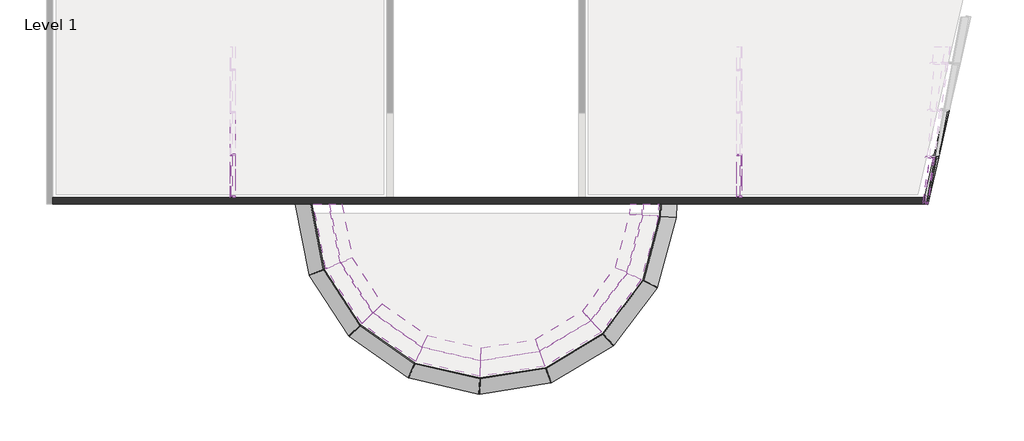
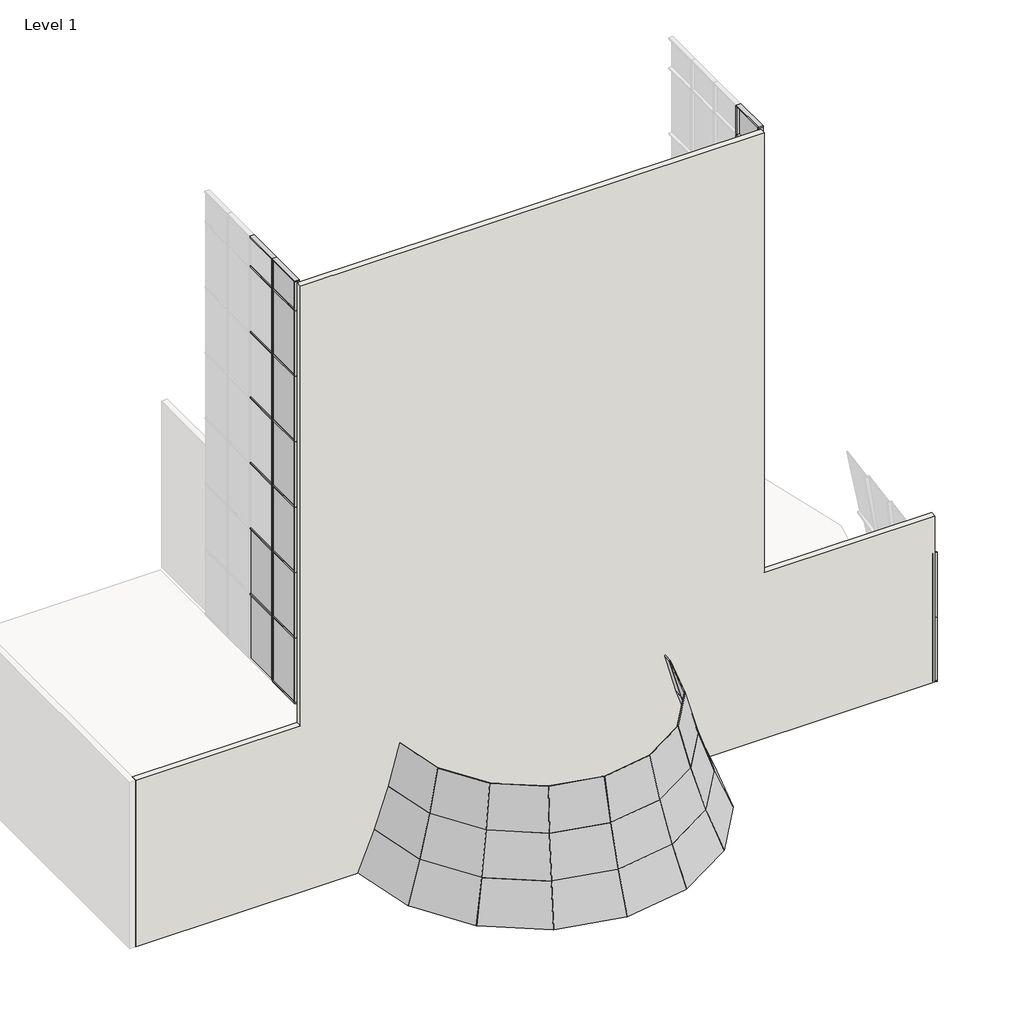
# One storey, part 1 of 4: 59 members, 45 plates, 1 wall.
"""IFC4 building model written with IfcOpenShell, lengths in millimetres."""

from ifc_helpers import new_model, si_unit, frame, origin, place, context, project, spatial, polyline, outline, extrude, transform, mapped, element, save
from components import rectangular_mullion_50_x_150mm_518b68e2, rectangular_mullion_50_x_150mm_6225e4e3, rectangular_mullion_50_x_150mm_8b0a0560, rectangular_mullion_50_x_150mm_662c37b1, rectangular_mullion_50_x_150mm_4186046b, rectangular_mullion_50_x_150mm_52791127, rectangular_mullion_50_x_150mm_c32e1d9f, rectangular_mullion_50_x_150mm_dfc8eed1, rectangular_mullion_50_x_150mm_8bc02e5d, rectangular_mullion_50_x_150mm_20ae9b8c, rectangular_mullion_50_x_150mm_801099e8, rectangular_mullion_50_x_150mm_c1bfd69c, rectangular_mullion_50_x_150mm_b9d54383, rectangular_mullion_50_x_150mm_a9c68ae1, rectangular_mullion_50_x_150mm_1a36453b, system_panel_glazed_d144a7da, system_panel_glazed_df259216, system_panel_glazed_098692fd, system_panel_glazed_5715ea40, system_panel_glazed_003a08bf, system_panel_glazed_bd283e11, system_panel_glazed_119a9483, system_panel_glazed_7fea05ff, system_panel_glazed_e56dad58, system_panel_glazed_fad301ff, system_panel_glazed_57588f8c, system_panel_glazed_55a81613, system_panel_glazed_3af11058

model = new_model("IFC4")

# Units and contexts
model_context = context("Model", 3, world=origin())
ifc_project = project(units=[si_unit("LENGTHUNIT", "METRE", prefix="MILLI")], contexts=[model_context])

# Site, building, storey
site = spatial("IfcSite", under=ifc_project)
building = spatial("IfcBuilding", under=site)
storey = spatial("IfcBuildingStorey", under=building, Name="Level 1", Elevation=0.0)

# Members
placement = place(None, origin())
rectangular_mullion_50_x_150mm_shape = rectangular_mullion_50_x_150mm_518b68e2(model_context)
element("IfcMember", 1, ObjectType="Rectangular Mullion : 50 x 150mm", at=placement, inside=storey, context=model_context, shape_type="MappedRepresentation", body=[
    mapped(rectangular_mullion_50_x_150mm_shape, transform((7953.3508723, -56.7852477, 6850.0), x_axis=(0.0, 1.0, 0.0), y_axis=(1.0, 0.0, 0.0), z_axis=(0.0, 0.0, -1.0))),
])
element("IfcMember", 2, ObjectType="Rectangular Mullion : 50 x 150mm", at=placement, inside=storey, context=model_context, shape_type="MappedRepresentation", body=[
    mapped(rectangular_mullion_50_x_150mm_shape, transform((-8113.532296, -56.7852477, 6850.0), x_axis=(0.0, -1.0, 0.0), y_axis=(-1.0, 0.0, 0.0), z_axis=(0.0, 0.0, -1.0))),
])
rectangular_mullion_50_x_150mm_2_shape = rectangular_mullion_50_x_150mm_6225e4e3(model_context)
element("IfcMember", 3, ObjectType="Rectangular Mullion : 50 x 150mm", at=placement, inside=storey, context=model_context, shape_type="MappedRepresentation", body=[
    mapped(rectangular_mullion_50_x_150mm_2_shape, transform((7953.3508723, -56.7852477, 9200.0), x_axis=(0.0, 1.0, 0.0), y_axis=(1.0, 0.0, 0.0), z_axis=(0.0, 0.0, -1.0))),
])
element("IfcMember", 4, ObjectType="Rectangular Mullion : 50 x 150mm", at=placement, inside=storey, context=model_context, shape_type="MappedRepresentation", body=[
    mapped(rectangular_mullion_50_x_150mm_2_shape, transform((7953.3508723, -56.7852477, 11600.0), x_axis=(0.0, 1.0, 0.0), y_axis=(1.0, 0.0, 0.0), z_axis=(0.0, 0.0, -1.0))),
])
element("IfcMember", 5, ObjectType="Rectangular Mullion : 50 x 150mm", at=placement, inside=storey, context=model_context, shape_type="MappedRepresentation", body=[
    mapped(rectangular_mullion_50_x_150mm_2_shape, transform((7953.3508723, -56.7852477, 14000.0), x_axis=(0.0, 1.0, 0.0), y_axis=(1.0, 0.0, 0.0), z_axis=(0.0, 0.0, -1.0))),
])
element("IfcMember", 6, ObjectType="Rectangular Mullion : 50 x 150mm", at=placement, inside=storey, context=model_context, shape_type="MappedRepresentation", body=[
    mapped(rectangular_mullion_50_x_150mm_2_shape, transform((7953.3508723, -56.7852477, 16400.0), x_axis=(0.0, 1.0, 0.0), y_axis=(1.0, 0.0, 0.0), z_axis=(0.0, 0.0, -1.0))),
])
element("IfcMember", 7, ObjectType="Rectangular Mullion : 50 x 150mm", at=placement, inside=storey, context=model_context, shape_type="MappedRepresentation", body=[
    mapped(rectangular_mullion_50_x_150mm_2_shape, transform((7953.3508723, -56.7852477, 18800.0), x_axis=(0.0, 1.0, 0.0), y_axis=(1.0, 0.0, 0.0), z_axis=(0.0, 0.0, -1.0))),
])
element("IfcMember", 8, ObjectType="Rectangular Mullion : 50 x 150mm", at=placement, inside=storey, context=model_context, shape_type="MappedRepresentation", body=[
    mapped(rectangular_mullion_50_x_150mm_2_shape, transform((-8113.532296, -56.7852477, 9200.0), x_axis=(0.0, -1.0, 0.0), y_axis=(-1.0, 0.0, 0.0), z_axis=(0.0, 0.0, -1.0))),
])
element("IfcMember", 9, ObjectType="Rectangular Mullion : 50 x 150mm", at=placement, inside=storey, context=model_context, shape_type="MappedRepresentation", body=[
    mapped(rectangular_mullion_50_x_150mm_2_shape, transform((-8113.532296, -56.7852477, 11600.0), x_axis=(0.0, -1.0, 0.0), y_axis=(-1.0, 0.0, 0.0), z_axis=(0.0, 0.0, -1.0))),
])
element("IfcMember", 10, ObjectType="Rectangular Mullion : 50 x 150mm", at=placement, inside=storey, context=model_context, shape_type="MappedRepresentation", body=[
    mapped(rectangular_mullion_50_x_150mm_2_shape, transform((-8113.532296, -56.7852477, 14000.0), x_axis=(0.0, -1.0, 0.0), y_axis=(-1.0, 0.0, 0.0), z_axis=(0.0, 0.0, -1.0))),
])
element("IfcMember", 11, ObjectType="Rectangular Mullion : 50 x 150mm", at=placement, inside=storey, context=model_context, shape_type="MappedRepresentation", body=[
    mapped(rectangular_mullion_50_x_150mm_2_shape, transform((-8113.532296, -56.7852477, 16400.0), x_axis=(0.0, -1.0, 0.0), y_axis=(-1.0, 0.0, 0.0), z_axis=(0.0, 0.0, -1.0))),
])
element("IfcMember", 12, ObjectType="Rectangular Mullion : 50 x 150mm", at=placement, inside=storey, context=model_context, shape_type="MappedRepresentation", body=[
    mapped(rectangular_mullion_50_x_150mm_2_shape, transform((-8113.532296, -56.7852477, 18800.0), x_axis=(0.0, -1.0, 0.0), y_axis=(-1.0, 0.0, 0.0), z_axis=(0.0, 0.0, -1.0))),
])
rectangular_mullion_50_x_150mm_3_shape = rectangular_mullion_50_x_150mm_8b0a0560(model_context)
element("IfcMember", 13, ObjectType="Rectangular Mullion : 50 x 150mm", at=placement, inside=storey, context=model_context, shape_type="MappedRepresentation", body=[
    mapped(rectangular_mullion_50_x_150mm_3_shape, transform((7953.3508723, -1410.1054831, 9200.0), x_axis=(0.0, -1.0, 0.0), y_axis=(1.0, 0.0, 0.0), z_axis=(0.0, 0.0, 1.0))),
])
rectangular_mullion_50_x_150mm_4_shape = rectangular_mullion_50_x_150mm_662c37b1(model_context)
element("IfcMember", 14, ObjectType="Rectangular Mullion : 50 x 150mm", at=placement, inside=storey, context=model_context, shape_type="MappedRepresentation", body=[
    mapped(rectangular_mullion_50_x_150mm_4_shape, transform((7953.3508723, -1410.1054831, 11600.0), x_axis=(0.0, -1.0, 0.0), y_axis=(1.0, 0.0, 0.0), z_axis=(0.0, 0.0, 1.0))),
])
element("IfcMember", 15, ObjectType="Rectangular Mullion : 50 x 150mm", at=placement, inside=storey, context=model_context, shape_type="MappedRepresentation", body=[
    mapped(rectangular_mullion_50_x_150mm_4_shape, transform((7953.3508723, -1410.1054831, 14000.0), x_axis=(0.0, -1.0, 0.0), y_axis=(1.0, 0.0, 0.0), z_axis=(0.0, 0.0, 1.0))),
])
element("IfcMember", 16, ObjectType="Rectangular Mullion : 50 x 150mm", at=placement, inside=storey, context=model_context, shape_type="MappedRepresentation", body=[
    mapped(rectangular_mullion_50_x_150mm_4_shape, transform((7953.3508723, -1410.1054831, 16400.0), x_axis=(0.0, -1.0, 0.0), y_axis=(1.0, 0.0, 0.0), z_axis=(0.0, 0.0, 1.0))),
])
element("IfcMember", 17, ObjectType="Rectangular Mullion : 50 x 150mm", at=placement, inside=storey, context=model_context, shape_type="MappedRepresentation", body=[
    mapped(rectangular_mullion_50_x_150mm_4_shape, transform((7953.3508723, -1410.1054831, 18800.0), x_axis=(0.0, -1.0, 0.0), y_axis=(1.0, 0.0, 0.0), z_axis=(0.0, 0.0, 1.0))),
])
element("IfcMember", 18, ObjectType="Rectangular Mullion : 50 x 150mm", at=placement, inside=storey, context=model_context, shape_type="MappedRepresentation", body=[
    mapped(rectangular_mullion_50_x_150mm_4_shape, transform((7953.3508723, -1410.1054831, 21200.0), x_axis=(0.0, -1.0, 0.0), y_axis=(1.0, 0.0, 0.0), z_axis=(0.0, 0.0, 1.0))),
])
rectangular_mullion_50_x_150mm_5_shape = rectangular_mullion_50_x_150mm_4186046b(model_context)
element("IfcMember", 19, ObjectType="Rectangular Mullion : 50 x 150mm", at=placement, inside=storey, context=model_context, shape_type="MappedRepresentation", body=[
    mapped(rectangular_mullion_50_x_150mm_5_shape, transform((7953.3508723, -1410.1054831, 6800.0), x_axis=(0.0, 0.0, -1.0), y_axis=(1.0, 0.0, 0.0), z_axis=(0.0, -1.0, 0.0))),
])
element("IfcMember", 20, ObjectType="Rectangular Mullion : 50 x 150mm", at=placement, inside=storey, context=model_context, shape_type="MappedRepresentation", body=[
    mapped(rectangular_mullion_50_x_150mm_5_shape, transform((7953.3508723, -56.7852477, 22300.0), x_axis=(0.0, 0.0, 1.0), y_axis=(1.0, 0.0, 0.0), z_axis=(0.0, 1.0, 0.0))),
])
element("IfcMember", 21, ObjectType="Rectangular Mullion : 50 x 150mm", at=placement, inside=storey, context=model_context, shape_type="MappedRepresentation", body=[
    mapped(rectangular_mullion_50_x_150mm_5_shape, transform((-8113.532296, -56.7852477, 22300.0), x_axis=(0.0, 0.0, 1.0), y_axis=(-1.0, 0.0, 0.0), z_axis=(0.0, -1.0, 0.0))),
])
element("IfcMember", 22, ObjectType="Rectangular Mullion : 50 x 150mm", at=placement, inside=storey, context=model_context, shape_type="MappedRepresentation", body=[
    mapped(rectangular_mullion_50_x_150mm_5_shape, transform((7953.3508723, -56.7852477, 6800.0), x_axis=(0.0, 0.0, -1.0), y_axis=(1.0, 0.0, 0.0), z_axis=(0.0, -1.0, 0.0))),
])
rectangular_mullion_50_x_150mm_6_shape = rectangular_mullion_50_x_150mm_52791127(model_context)
element("IfcMember", 23, ObjectType="Rectangular Mullion : 50 x 150mm", at=placement, inside=storey, context=model_context, shape_type="MappedRepresentation", body=[
    mapped(rectangular_mullion_50_x_150mm_6_shape, transform((7953.3508723, -81.7852477, 9200.0), x_axis=(0.0, 0.0, 1.0), y_axis=(1.0, 0.0, 0.0), z_axis=(0.0, 1.0, 0.0))),
])
element("IfcMember", 24, ObjectType="Rectangular Mullion : 50 x 150mm", at=placement, inside=storey, context=model_context, shape_type="MappedRepresentation", body=[
    mapped(rectangular_mullion_50_x_150mm_6_shape, transform((7953.3508723, -81.7852477, 11600.0), x_axis=(0.0, 0.0, 1.0), y_axis=(1.0, 0.0, 0.0), z_axis=(0.0, 1.0, 0.0))),
])
element("IfcMember", 25, ObjectType="Rectangular Mullion : 50 x 150mm", at=placement, inside=storey, context=model_context, shape_type="MappedRepresentation", body=[
    mapped(rectangular_mullion_50_x_150mm_6_shape, transform((7953.3508723, -81.7852477, 14000.0), x_axis=(0.0, 0.0, 1.0), y_axis=(1.0, 0.0, 0.0), z_axis=(0.0, 1.0, 0.0))),
])
element("IfcMember", 26, ObjectType="Rectangular Mullion : 50 x 150mm", at=placement, inside=storey, context=model_context, shape_type="MappedRepresentation", body=[
    mapped(rectangular_mullion_50_x_150mm_6_shape, transform((7953.3508723, -81.7852477, 16400.0), x_axis=(0.0, 0.0, 1.0), y_axis=(1.0, 0.0, 0.0), z_axis=(0.0, 1.0, 0.0))),
])
element("IfcMember", 27, ObjectType="Rectangular Mullion : 50 x 150mm", at=placement, inside=storey, context=model_context, shape_type="MappedRepresentation", body=[
    mapped(rectangular_mullion_50_x_150mm_6_shape, transform((7953.3508723, -81.7852477, 18800.0), x_axis=(0.0, 0.0, 1.0), y_axis=(1.0, 0.0, 0.0), z_axis=(0.0, 1.0, 0.0))),
])
element("IfcMember", 28, ObjectType="Rectangular Mullion : 50 x 150mm", at=placement, inside=storey, context=model_context, shape_type="MappedRepresentation", body=[
    mapped(rectangular_mullion_50_x_150mm_6_shape, transform((7953.3508723, -81.7852477, 21200.0), x_axis=(0.0, 0.0, 1.0), y_axis=(1.0, 0.0, 0.0), z_axis=(0.0, 1.0, 0.0))),
])
element("IfcMember", 29, ObjectType="Rectangular Mullion : 50 x 150mm", at=placement, inside=storey, context=model_context, shape_type="MappedRepresentation", body=[
    mapped(rectangular_mullion_50_x_150mm_6_shape, transform((-8113.532296, -1360.1054831, 9200.0), x_axis=(0.0, 0.0, 1.0), y_axis=(-1.0, 0.0, 0.0), z_axis=(0.0, -1.0, 0.0))),
])
element("IfcMember", 30, ObjectType="Rectangular Mullion : 50 x 150mm", at=placement, inside=storey, context=model_context, shape_type="MappedRepresentation", body=[
    mapped(rectangular_mullion_50_x_150mm_6_shape, transform((-8113.532296, -1360.1054831, 11600.0), x_axis=(0.0, 0.0, 1.0), y_axis=(-1.0, 0.0, 0.0), z_axis=(0.0, -1.0, 0.0))),
])
element("IfcMember", 31, ObjectType="Rectangular Mullion : 50 x 150mm", at=placement, inside=storey, context=model_context, shape_type="MappedRepresentation", body=[
    mapped(rectangular_mullion_50_x_150mm_6_shape, transform((-8113.532296, -1360.1054831, 14000.0), x_axis=(0.0, 0.0, 1.0), y_axis=(-1.0, 0.0, 0.0), z_axis=(0.0, -1.0, 0.0))),
])
element("IfcMember", 32, ObjectType="Rectangular Mullion : 50 x 150mm", at=placement, inside=storey, context=model_context, shape_type="MappedRepresentation", body=[
    mapped(rectangular_mullion_50_x_150mm_6_shape, transform((-8113.532296, -1360.1054831, 16400.0), x_axis=(0.0, 0.0, 1.0), y_axis=(-1.0, 0.0, 0.0), z_axis=(0.0, -1.0, 0.0))),
])
element("IfcMember", 33, ObjectType="Rectangular Mullion : 50 x 150mm", at=placement, inside=storey, context=model_context, shape_type="MappedRepresentation", body=[
    mapped(rectangular_mullion_50_x_150mm_6_shape, transform((-8113.532296, -1360.1054831, 18800.0), x_axis=(0.0, 0.0, 1.0), y_axis=(-1.0, 0.0, 0.0), z_axis=(0.0, -1.0, 0.0))),
])
element("IfcMember", 34, ObjectType="Rectangular Mullion : 50 x 150mm", at=placement, inside=storey, context=model_context, shape_type="MappedRepresentation", body=[
    mapped(rectangular_mullion_50_x_150mm_6_shape, transform((-8113.532296, -1360.1054831, 21200.0), x_axis=(0.0, 0.0, 1.0), y_axis=(-1.0, 0.0, 0.0), z_axis=(0.0, -1.0, 0.0))),
])
rectangular_mullion_50_x_150mm_7_shape = rectangular_mullion_50_x_150mm_c32e1d9f(model_context)
element("IfcMember", 35, ObjectType="Rectangular Mullion : 50 x 150mm", at=placement, inside=storey, context=model_context, shape_type="MappedRepresentation", body=[
    mapped(rectangular_mullion_50_x_150mm_7_shape, transform((-8113.532296, -31.7852477, 9200.0), x_axis=(0.0, 0.0, 1.0), y_axis=(-1.0, 0.0, 0.0), z_axis=(0.0, -1.0, 0.0))),
])
element("IfcMember", 36, ObjectType="Rectangular Mullion : 50 x 150mm", at=placement, inside=storey, context=model_context, shape_type="MappedRepresentation", body=[
    mapped(rectangular_mullion_50_x_150mm_7_shape, transform((-8113.532296, -31.7852477, 11600.0), x_axis=(0.0, 0.0, 1.0), y_axis=(-1.0, 0.0, 0.0), z_axis=(0.0, -1.0, 0.0))),
])
element("IfcMember", 37, ObjectType="Rectangular Mullion : 50 x 150mm", at=placement, inside=storey, context=model_context, shape_type="MappedRepresentation", body=[
    mapped(rectangular_mullion_50_x_150mm_7_shape, transform((-8113.532296, -31.7852477, 14000.0), x_axis=(0.0, 0.0, 1.0), y_axis=(-1.0, 0.0, 0.0), z_axis=(0.0, -1.0, 0.0))),
])
element("IfcMember", 38, ObjectType="Rectangular Mullion : 50 x 150mm", at=placement, inside=storey, context=model_context, shape_type="MappedRepresentation", body=[
    mapped(rectangular_mullion_50_x_150mm_7_shape, transform((-8113.532296, -31.7852477, 16400.0), x_axis=(0.0, 0.0, 1.0), y_axis=(-1.0, 0.0, 0.0), z_axis=(0.0, -1.0, 0.0))),
])
element("IfcMember", 39, ObjectType="Rectangular Mullion : 50 x 150mm", at=placement, inside=storey, context=model_context, shape_type="MappedRepresentation", body=[
    mapped(rectangular_mullion_50_x_150mm_7_shape, transform((-8113.532296, -31.7852477, 18800.0), x_axis=(0.0, 0.0, 1.0), y_axis=(-1.0, 0.0, 0.0), z_axis=(0.0, -1.0, 0.0))),
])
element("IfcMember", 40, ObjectType="Rectangular Mullion : 50 x 150mm", at=placement, inside=storey, context=model_context, shape_type="MappedRepresentation", body=[
    mapped(rectangular_mullion_50_x_150mm_7_shape, transform((-8113.532296, -31.7852477, 21200.0), x_axis=(0.0, 0.0, 1.0), y_axis=(-1.0, 0.0, 0.0), z_axis=(0.0, -1.0, 0.0))),
])
element("IfcMember", 41, ObjectType="Rectangular Mullion : 50 x 150mm", at=placement, inside=storey, context=model_context, shape_type="MappedRepresentation", body=[
    mapped(rectangular_mullion_50_x_150mm_3_shape, transform((-8113.532296, -1410.1054831, 6850.0), x_axis=(0.0, -1.0, 0.0), y_axis=(-1.0, 0.0, 0.0), z_axis=(0.0, 0.0, -1.0))),
])
element("IfcMember", 42, ObjectType="Rectangular Mullion : 50 x 150mm", at=placement, inside=storey, context=model_context, shape_type="MappedRepresentation", body=[
    mapped(rectangular_mullion_50_x_150mm_4_shape, transform((-8113.532296, -1410.1054831, 9200.0), x_axis=(0.0, -1.0, 0.0), y_axis=(-1.0, 0.0, 0.0), z_axis=(0.0, 0.0, -1.0))),
])
element("IfcMember", 43, ObjectType="Rectangular Mullion : 50 x 150mm", at=placement, inside=storey, context=model_context, shape_type="MappedRepresentation", body=[
    mapped(rectangular_mullion_50_x_150mm_4_shape, transform((-8113.532296, -1410.1054831, 11600.0), x_axis=(0.0, -1.0, 0.0), y_axis=(-1.0, 0.0, 0.0), z_axis=(0.0, 0.0, -1.0))),
])
element("IfcMember", 44, ObjectType="Rectangular Mullion : 50 x 150mm", at=placement, inside=storey, context=model_context, shape_type="MappedRepresentation", body=[
    mapped(rectangular_mullion_50_x_150mm_4_shape, transform((-8113.532296, -1410.1054831, 14000.0), x_axis=(0.0, -1.0, 0.0), y_axis=(-1.0, 0.0, 0.0), z_axis=(0.0, 0.0, -1.0))),
])
element("IfcMember", 45, ObjectType="Rectangular Mullion : 50 x 150mm", at=placement, inside=storey, context=model_context, shape_type="MappedRepresentation", body=[
    mapped(rectangular_mullion_50_x_150mm_4_shape, transform((-8113.532296, -1410.1054831, 16400.0), x_axis=(0.0, -1.0, 0.0), y_axis=(-1.0, 0.0, 0.0), z_axis=(0.0, 0.0, -1.0))),
])
element("IfcMember", 46, ObjectType="Rectangular Mullion : 50 x 150mm", at=placement, inside=storey, context=model_context, shape_type="MappedRepresentation", body=[
    mapped(rectangular_mullion_50_x_150mm_4_shape, transform((-8113.532296, -1410.1054831, 18800.0), x_axis=(0.0, -1.0, 0.0), y_axis=(-1.0, 0.0, 0.0), z_axis=(0.0, 0.0, -1.0))),
])
element("IfcMember", 47, ObjectType="Rectangular Mullion : 50 x 150mm", at=placement, inside=storey, context=model_context, shape_type="MappedRepresentation", body=[
    mapped(rectangular_mullion_50_x_150mm_5_shape, transform((-8113.532296, -1410.1054831, 22300.0), x_axis=(0.0, 0.0, 1.0), y_axis=(-1.0, 0.0, 0.0), z_axis=(0.0, -1.0, 0.0))),
])
element("IfcMember", 48, ObjectType="Rectangular Mullion : 50 x 150mm", at=placement, inside=storey, context=model_context, shape_type="MappedRepresentation", body=[
    mapped(rectangular_mullion_50_x_150mm_5_shape, transform((-8113.532296, -56.7852477, 6800.0), x_axis=(0.0, 0.0, -1.0), y_axis=(-1.0, 0.0, 0.0), z_axis=(0.0, 1.0, 0.0))),
])
rectangular_mullion_50_x_150mm_8_shape = rectangular_mullion_50_x_150mm_dfc8eed1(model_context)
element("IfcMember", 49, ObjectType="Rectangular Mullion : 50 x 150mm", at=placement, inside=storey, context=model_context, shape_type="MappedRepresentation", body=[
    mapped(rectangular_mullion_50_x_150mm_8_shape, transform((13862.2459218, -1610.1054831, 0.0), x_axis=(0.026968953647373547, -0.00620703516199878, -0.9996170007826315), y_axis=(0.974148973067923, -0.22420509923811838, 0.027674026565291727), z_axis=(-0.22429100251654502, -0.9745222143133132, 0.0))),
])
element("IfcMember", 50, ObjectType="Rectangular Mullion : 50 x 150mm", at=placement, inside=storey, context=model_context, shape_type="MappedRepresentation", body=[
    mapped(rectangular_mullion_50_x_150mm_8_shape, transform((14205.2147124, -119.9400218, 0.0), x_axis=(0.08066014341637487, -0.018564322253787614, -0.996568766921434), y_axis=(0.9711784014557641, -0.22352140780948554, 0.08276891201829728), z_axis=(-0.22429100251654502, -0.9745222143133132, 0.0))),
])
rectangular_mullion_50_x_150mm_9_shape = rectangular_mullion_50_x_150mm_8bc02e5d(model_context)
element("IfcMember", 51, ObjectType="Rectangular Mullion : 50 x 150mm", at=placement, inside=storey, context=model_context, shape_type="MappedRepresentation", body=[
    mapped(rectangular_mullion_50_x_150mm_9_shape, transform((13862.2459218, -1610.1054831, 2369.6875935), x_axis=(-0.1823134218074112, -0.9832404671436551, 0.0), y_axis=(0.9832404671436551, -0.1823134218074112, 0.0), z_axis=(0.0, 0.0, 1.0))),
])
rectangular_mullion_50_x_150mm_10_shape = rectangular_mullion_50_x_150mm_20ae9b8c(model_context)
element("IfcMember", 52, ObjectType="Rectangular Mullion : 50 x 150mm", at=placement, inside=storey, context=model_context, shape_type="MappedRepresentation", body=[
    mapped(rectangular_mullion_50_x_150mm_10_shape, transform((13862.2459218, -1610.1054831, 4739.375187), x_axis=(-0.0955146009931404, -0.9954280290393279, 0.0), y_axis=(0.995428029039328, -0.09551460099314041, 0.0), z_axis=(0.0, 0.0, 1.0))),
])
rectangular_mullion_50_x_150mm_11_shape = rectangular_mullion_50_x_150mm_801099e8(model_context)
element("IfcMember", 53, ObjectType="Rectangular Mullion : 50 x 150mm", at=placement, inside=storey, context=model_context, shape_type="MappedRepresentation", body=[
    mapped(rectangular_mullion_50_x_150mm_11_shape, transform((14068.410165, -144.6962241, 2369.6875935), x_axis=(-0.05417155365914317, 0.007621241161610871, 0.9985025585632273), y_axis=(0.9887652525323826, -0.13910655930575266, 0.05470503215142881), z_axis=(0.13931517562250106, 0.9902480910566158, 0.0))),
])
rectangular_mullion_50_x_150mm_12_shape = rectangular_mullion_50_x_150mm_c1bfd69c(model_context)
element("IfcMember", 54, ObjectType="Rectangular Mullion : 50 x 150mm", at=placement, inside=storey, context=model_context, shape_type="MappedRepresentation", body=[
    mapped(rectangular_mullion_50_x_150mm_12_shape, transform((14202.4060897, -119.9400218, 49.9210541), x_axis=(0.221860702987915, 0.9749984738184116, 0.012482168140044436), y_axis=(0.9734590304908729, -0.22221155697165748, 0.05476805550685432), z_axis=(0.0561724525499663, 0.0, -0.9984210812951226))),
])
rectangular_mullion_50_x_150mm_13_shape = rectangular_mullion_50_x_150mm_b9d54383(model_context)
element("IfcMember", 55, ObjectType="Rectangular Mullion : 50 x 150mm", at=placement, inside=storey, context=model_context, shape_type="MappedRepresentation", body=[
    mapped(rectangular_mullion_50_x_150mm_13_shape, transform((14071.8930444, -119.9400218, 2369.6875935), x_axis=(0.1388798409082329, 0.9902784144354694, 0.007813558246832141), y_axis=(0.9887148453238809, -0.1390994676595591, 0.05562636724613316), z_axis=(0.056172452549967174, 0.0, -0.9984210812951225))),
])
rectangular_mullion_50_x_150mm_14_shape = rectangular_mullion_50_x_150mm_a9c68ae1(model_context)
element("IfcMember", 56, ObjectType="Rectangular Mullion : 50 x 150mm", at=placement, inside=storey, context=model_context, shape_type="MappedRepresentation", body=[
    mapped(rectangular_mullion_50_x_150mm_14_shape, transform((7953.3508723, -56.7852477, 21200.0), x_axis=(0.0, 1.0, 0.0), y_axis=(1.0, 0.0, 0.0), z_axis=(0.0, 0.0, -1.0))),
])
element("IfcMember", 57, ObjectType="Rectangular Mullion : 50 x 150mm", at=placement, inside=storey, context=model_context, shape_type="MappedRepresentation", body=[
    mapped(rectangular_mullion_50_x_150mm_14_shape, transform((-8113.532296, -56.7852477, 21200.0), x_axis=(0.0, -1.0, 0.0), y_axis=(-1.0, 0.0, 0.0), z_axis=(0.0, 0.0, -1.0))),
])
rectangular_mullion_50_x_150mm_15_shape = rectangular_mullion_50_x_150mm_1a36453b(model_context)
element("IfcMember", 58, ObjectType="Rectangular Mullion : 50 x 150mm", at=placement, inside=storey, context=model_context, shape_type="MappedRepresentation", body=[
    mapped(rectangular_mullion_50_x_150mm_15_shape, transform((-8113.532296, -1410.1054831, 21200.0), x_axis=(0.0, -1.0, 0.0), y_axis=(-1.0, 0.0, 0.0), z_axis=(0.0, 0.0, -1.0))),
])
element("IfcMember", 59, ObjectType="Rectangular Mullion : 50 x 150mm", at=placement, inside=storey, context=model_context, shape_type="MappedRepresentation", body=[
    mapped(rectangular_mullion_50_x_150mm_15_shape, transform((7953.3508723, -1410.1054831, 22250.0), x_axis=(0.0, -1.0, 0.0), y_axis=(1.0, 0.0, 0.0), z_axis=(0.0, 0.0, 1.0))),
])

# Plates
system_panel_glazed_shape = system_panel_glazed_d144a7da(model_context)
element("IfcPlate", 60, ObjectType="System Panel : Glazed", at=placement, inside=storey, context=model_context, shape_type="MappedRepresentation", body=[
    mapped(system_panel_glazed_shape, transform((7953.3508723, -720.9453654, 6850.0), x_axis=(0.0, 1.0, 0.0), y_axis=(-1.0, 0.0, 0.0), z_axis=(0.0, 0.0, 1.0))),
])
element("IfcPlate", 61, ObjectType="System Panel : Glazed", at=placement, inside=storey, context=model_context, shape_type="MappedRepresentation", body=[
    mapped(system_panel_glazed_shape, transform((-8113.532296, -720.9453654, 6850.0), x_axis=(0.0, -1.0, 0.0), y_axis=(1.0, 0.0, 0.0), z_axis=(0.0, 0.0, 1.0))),
])
system_panel_glazed_2_shape = system_panel_glazed_df259216(model_context)
element("IfcPlate", 62, ObjectType="System Panel : Glazed", at=placement, inside=storey, context=model_context, shape_type="MappedRepresentation", body=[
    mapped(system_panel_glazed_2_shape, transform((-8113.532296, 619.8748699, 6850.0), x_axis=(0.0, -1.0, 0.0), y_axis=(1.0, 0.0, 0.0), z_axis=(0.0, 0.0, 1.0))),
])
system_panel_glazed_3_shape = system_panel_glazed_098692fd(model_context)
element("IfcPlate", 63, ObjectType="System Panel : Glazed", at=placement, inside=storey, context=model_context, shape_type="MappedRepresentation", body=[
    mapped(system_panel_glazed_3_shape, transform((7953.3508723, -720.9453654, 9225.0), x_axis=(0.0, 1.0, 0.0), y_axis=(-1.0, 0.0, 0.0), z_axis=(0.0, 0.0, 1.0))),
])
element("IfcPlate", 64, ObjectType="System Panel : Glazed", at=placement, inside=storey, context=model_context, shape_type="MappedRepresentation", body=[
    mapped(system_panel_glazed_3_shape, transform((7953.3508723, -720.9453654, 11625.0), x_axis=(0.0, 1.0, 0.0), y_axis=(-1.0, 0.0, 0.0), z_axis=(0.0, 0.0, 1.0))),
])
element("IfcPlate", 65, ObjectType="System Panel : Glazed", at=placement, inside=storey, context=model_context, shape_type="MappedRepresentation", body=[
    mapped(system_panel_glazed_3_shape, transform((7953.3508723, -720.9453654, 14025.0), x_axis=(0.0, 1.0, 0.0), y_axis=(-1.0, 0.0, 0.0), z_axis=(0.0, 0.0, 1.0))),
])
element("IfcPlate", 66, ObjectType="System Panel : Glazed", at=placement, inside=storey, context=model_context, shape_type="MappedRepresentation", body=[
    mapped(system_panel_glazed_3_shape, transform((7953.3508723, -720.9453654, 16425.0), x_axis=(0.0, 1.0, 0.0), y_axis=(-1.0, 0.0, 0.0), z_axis=(0.0, 0.0, 1.0))),
])
element("IfcPlate", 67, ObjectType="System Panel : Glazed", at=placement, inside=storey, context=model_context, shape_type="MappedRepresentation", body=[
    mapped(system_panel_glazed_3_shape, transform((7953.3508723, -720.9453654, 18825.0), x_axis=(0.0, 1.0, 0.0), y_axis=(-1.0, 0.0, 0.0), z_axis=(0.0, 0.0, 1.0))),
])
element("IfcPlate", 68, ObjectType="System Panel : Glazed", at=placement, inside=storey, context=model_context, shape_type="MappedRepresentation", body=[
    mapped(system_panel_glazed_3_shape, transform((-8113.532296, -720.9453654, 9225.0), x_axis=(0.0, -1.0, 0.0), y_axis=(1.0, 0.0, 0.0), z_axis=(0.0, 0.0, 1.0))),
])
element("IfcPlate", 69, ObjectType="System Panel : Glazed", at=placement, inside=storey, context=model_context, shape_type="MappedRepresentation", body=[
    mapped(system_panel_glazed_3_shape, transform((-8113.532296, -720.9453654, 11625.0), x_axis=(0.0, -1.0, 0.0), y_axis=(1.0, 0.0, 0.0), z_axis=(0.0, 0.0, 1.0))),
])
element("IfcPlate", 70, ObjectType="System Panel : Glazed", at=placement, inside=storey, context=model_context, shape_type="MappedRepresentation", body=[
    mapped(system_panel_glazed_3_shape, transform((-8113.532296, -720.9453654, 14025.0), x_axis=(0.0, -1.0, 0.0), y_axis=(1.0, 0.0, 0.0), z_axis=(0.0, 0.0, 1.0))),
])
element("IfcPlate", 71, ObjectType="System Panel : Glazed", at=placement, inside=storey, context=model_context, shape_type="MappedRepresentation", body=[
    mapped(system_panel_glazed_3_shape, transform((-8113.532296, -720.9453654, 16425.0), x_axis=(0.0, -1.0, 0.0), y_axis=(1.0, 0.0, 0.0), z_axis=(0.0, 0.0, 1.0))),
])
element("IfcPlate", 72, ObjectType="System Panel : Glazed", at=placement, inside=storey, context=model_context, shape_type="MappedRepresentation", body=[
    mapped(system_panel_glazed_3_shape, transform((-8113.532296, -720.9453654, 18825.0), x_axis=(0.0, -1.0, 0.0), y_axis=(1.0, 0.0, 0.0), z_axis=(0.0, 0.0, 1.0))),
])
system_panel_glazed_4_shape = system_panel_glazed_5715ea40(model_context)
element("IfcPlate", 73, ObjectType="System Panel : Glazed", at=placement, inside=storey, context=model_context, shape_type="MappedRepresentation", body=[
    mapped(system_panel_glazed_4_shape, transform((-8113.532296, 619.8748699, 9225.0), x_axis=(0.0, -1.0, 0.0), y_axis=(1.0, 0.0, 0.0), z_axis=(0.0, 0.0, 1.0))),
])
system_panel_glazed_5_shape = system_panel_glazed_003a08bf(model_context)
element("IfcPlate", 74, ObjectType="System Panel : Glazed", at=placement, inside=storey, context=model_context, shape_type="MappedRepresentation", body=[
    mapped(system_panel_glazed_5_shape, transform((14034.3554374, -854.0706336, 49.9680164), x_axis=(0.18234554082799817, 0.9832337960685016, -0.001185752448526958), y_axis=(-0.9828645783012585, 0.1822437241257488, -0.02764861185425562), z_axis=(-0.026968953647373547, 0.006207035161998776, 0.9996170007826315))),
])
system_panel_glazed_6_shape = system_panel_glazed_bd283e11(model_context)
element("IfcPlate", 75, ObjectType="System Panel : Glazed", at=placement, inside=storey, context=model_context, shape_type="MappedRepresentation", body=[
    mapped(system_panel_glazed_6_shape, transform((13967.423963, -854.0060518, 2394.6642318), x_axis=(0.09554895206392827, 0.9954239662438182, -0.001234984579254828), y_axis=(-0.9950379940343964, 0.09547717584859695, -0.02799105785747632), z_axis=(-0.027745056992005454, 0.0039033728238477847, 0.9996074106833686))),
])
system_panel_glazed_7_shape = system_panel_glazed_119a9483(model_context)
element("IfcPlate", 76, ObjectType="System Panel : Glazed", at=placement, inside=storey, context=model_context, shape_type="MappedRepresentation", body=[
    mapped(system_panel_glazed_7_shape, transform((5912.389052, -1822.3898816, 0.0), x_axis=(0.035403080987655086, 0.9993731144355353, 3.214486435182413e-12), y_axis=(-0.9242594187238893, 0.03274215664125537, -0.38035835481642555), z_axis=(-0.38011991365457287, 0.013465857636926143, 0.9248391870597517))),
])
system_panel_glazed_8_shape = system_panel_glazed_7fea05ff(model_context)
element("IfcPlate", 77, ObjectType="System Panel : Glazed", at=placement, inside=storey, context=model_context, shape_type="MappedRepresentation", body=[
    mapped(system_panel_glazed_8_shape, transform((5342.2609305, -1802.1930166, 1387.1328668), x_axis=(0.035403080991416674, 0.9993731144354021, 0.0), y_axis=(-0.9456797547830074, 0.0335009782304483, -0.32336896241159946), z_axis=(-0.32316624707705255, 0.011448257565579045, 0.9462729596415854))),
])
system_panel_glazed_9_shape = system_panel_glazed_e56dad58(model_context)
element("IfcPlate", 78, ObjectType="System Panel : Glazed", at=placement, inside=storey, context=model_context, shape_type="MappedRepresentation", body=[
    mapped(system_panel_glazed_9_shape, transform((4857.5433597, -1785.0218317, 2806.4491846), x_axis=(0.03540308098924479, 0.999373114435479, 0.0), y_axis=(-0.9644422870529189, 0.03416564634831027, -0.2620759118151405), z_axis=(-0.2619116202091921, 0.00927829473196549, 0.965047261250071))),
])
system_panel_glazed_10_shape = system_panel_glazed_fad301ff(model_context)
element("IfcPlate", 79, ObjectType="System Panel : Glazed", at=placement, inside=storey, context=model_context, shape_type="MappedRepresentation", body=[
    mapped(system_panel_glazed_10_shape, transform((-5861.7837303, -2733.575001, 0.0), x_axis=(0.19074722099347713, -0.9816391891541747, 0.0), y_axis=(0.9101772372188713, 0.17686109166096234, -0.3745631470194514), z_axis=(0.36768586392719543, 0.0714468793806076, 0.9272014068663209))),
])
element("IfcPlate", 80, ObjectType="System Panel : Glazed", at=placement, inside=storey, context=model_context, shape_type="MappedRepresentation", body=[
    mapped(system_panel_glazed_10_shape, transform((-3459.8799339, -6433.7122987, 0.0), x_axis=(0.8189714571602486, -0.573834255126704, 0.0), y_axis=(0.5320599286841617, 0.759351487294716, -0.3745631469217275), z_axis=(0.21493716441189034, 0.30675652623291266, 0.9272014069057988))),
])
element("IfcPlate", 81, ObjectType="System Panel : Glazed", at=placement, inside=storey, context=model_context, shape_type="MappedRepresentation", body=[
    mapped(system_panel_glazed_10_shape, transform((837.9860656, -7427.9481507, 0.0), x_axis=(0.9877768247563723, 0.15587477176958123, 0.0), y_axis=(-0.1445273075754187, 0.9158680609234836, -0.37456314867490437), z_axis=(-0.058384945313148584, 0.369984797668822, 0.9272014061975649))),
])
element("IfcPlate", 82, ObjectType="System Panel : Glazed", at=placement, inside=storey, context=model_context, shape_type="MappedRepresentation", body=[
    mapped(system_panel_glazed_10_shape, transform((4620.837768, -5158.5459268, 0.0), x_axis=(0.6024685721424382, 0.7981426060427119, 0.0), y_axis=(-0.7400389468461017, 0.5586097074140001, -0.37456314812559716), z_axis=(-0.2989548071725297, 0.22566252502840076, 0.9272014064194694))),
])
element("IfcPlate", 83, ObjectType="System Panel : Glazed", at=placement, inside=storey, context=model_context, shape_type="MappedRepresentation", body=[
    mapped(system_panel_glazed_10_shape, transform((5607.6108279, -3139.8797595, 0.0), x_axis=(0.25973122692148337, 0.9656809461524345, 0.0), y_axis=(-0.8953807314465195, 0.2408231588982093, -0.37456314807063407), z_axis=(-0.36170849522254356, 0.09728574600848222, 0.9272014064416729))),
])
element("IfcPlate", 84, ObjectType="System Panel : Glazed", at=placement, inside=storey, context=model_context, shape_type="MappedRepresentation", body=[
    mapped(system_panel_glazed_10_shape, transform((2949.9012772, -6660.7793688, 0.0), x_axis=(0.8575238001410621, 0.5144442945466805, 0.0), y_axis=(-0.4769934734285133, 0.7950972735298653, -0.3745631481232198), z_axis=(-0.19269187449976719, 0.32119681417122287, 0.9272014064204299))),
])
element("IfcPlate", 85, ObjectType="System Panel : Glazed", at=placement, inside=storey, context=model_context, shape_type="MappedRepresentation", body=[
    mapped(system_panel_glazed_10_shape, transform((-1407.544304, -7348.4000635, 0.0), x_axis=(0.974270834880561, -0.22538043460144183, 0.0), y_axis=(0.20897305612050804, 0.9033452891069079, -0.37456314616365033), z_axis=(0.08441920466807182, 0.36492594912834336, 0.9272014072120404))),
])
element("IfcPlate", 86, ObjectType="System Panel : Glazed", at=placement, inside=storey, context=model_context, shape_type="MappedRepresentation", body=[
    mapped(system_panel_glazed_10_shape, transform((-5020.3278678, -4817.0065838, 0.0), x_axis=(0.5444806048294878, -0.8387734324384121, 0.0), y_axis=(0.7777119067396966, 0.5048431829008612, -0.3745631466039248), z_axis=(0.31417361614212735, 0.20394236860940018, 0.927201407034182))),
])
system_panel_glazed_11_shape = system_panel_glazed_57588f8c(model_context)
element("IfcPlate", 87, ObjectType="System Panel : Glazed", at=placement, inside=storey, context=model_context, shape_type="MappedRepresentation", body=[
    mapped(system_panel_glazed_11_shape, transform((-5311.7099862, -2626.6874367, 1387.1328668), x_axis=(0.19074722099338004, -0.9816391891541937, 0.0), y_axis=(0.9306116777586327, 0.1808318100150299, -0.3182165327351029), z_axis=(0.31237381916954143, 0.0606989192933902, 0.9480180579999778))),
])
element("IfcPlate", 88, ObjectType="System Panel : Glazed", at=placement, inside=storey, context=model_context, shape_type="MappedRepresentation", body=[
    mapped(system_panel_glazed_11_shape, transform((-3138.3247587, -5974.791451, 1387.1328668), x_axis=(0.8189714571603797, -0.5738342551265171, 0.0), y_axis=(0.5440052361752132, 0.7763997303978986, -0.31821653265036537), z_axis=(0.18260354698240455, 0.26061025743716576, 0.9480180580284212))),
])
element("IfcPlate", 89, ObjectType="System Panel : Glazed", at=placement, inside=storey, context=model_context, shape_type="MappedRepresentation", body=[
    mapped(system_panel_glazed_11_shape, transform((750.6396899, -6874.4351073, 1387.1328668), x_axis=(0.9877768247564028, 0.15587477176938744, 0.0), y_axis=(-0.14777209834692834, 0.9364302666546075, -0.3182165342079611), z_axis=(-0.049601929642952, 0.3143269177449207, 0.9480180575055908))),
])
element("IfcPlate", 90, ObjectType="System Panel : Glazed", at=placement, inside=storey, context=model_context, shape_type="MappedRepresentation", body=[
    mapped(system_panel_glazed_11_shape, transform((4173.5886108, -4820.9451731, 1387.1328668), x_axis=(0.602468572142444, 0.7981426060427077, 0.0), y_axis=(-0.7566536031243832, 0.5711510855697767, -0.3182165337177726), z_axis=(-0.253982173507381, 0.19171546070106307, 0.9480180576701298))),
])
element("IfcPlate", 91, ObjectType="System Panel : Glazed", at=placement, inside=storey, context=model_context, shape_type="MappedRepresentation", body=[
    mapped(system_panel_glazed_11_shape, transform((5066.4794896, -2994.3361166, 1387.1328668), x_axis=(0.25973122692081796, 0.9656809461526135, 0.0), y_axis=(-0.9154829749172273, 0.2462298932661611, -0.31821653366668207), z_axis=(-0.30729564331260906, 0.08265077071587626, 0.9480180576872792))),
])
element("IfcPlate", 92, ObjectType="System Panel : Glazed", at=placement, inside=storey, context=model_context, shape_type="MappedRepresentation", body=[
    mapped(system_panel_glazed_11_shape, transform((2661.6260207, -6180.2552238, 1387.1328668), x_axis=(0.8575238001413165, 0.5144442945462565, 0.0), y_axis=(-0.48770248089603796, 0.8129480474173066, -0.3182165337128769), z_axis=(-0.16370468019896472, 0.2728782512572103, 0.9480180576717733))),
])
element("IfcPlate", 93, ObjectType="System Panel : Glazed", at=placement, inside=storey, context=model_context, shape_type="MappedRepresentation", body=[
    mapped(system_panel_glazed_11_shape, transform((-1281.2495725, -6802.4552729, 1387.1328668), x_axis=(0.9742708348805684, -0.22538043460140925, 0.0), y_axis=(0.21366472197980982, 0.9236263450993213, -0.3182165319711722), z_axis=(0.07171978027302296, 0.3100290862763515, 0.9480180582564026))),
])
element("IfcPlate", 94, ObjectType="System Panel : Glazed", at=placement, inside=storey, context=model_context, shape_type="MappedRepresentation", body=[
    mapped(system_panel_glazed_11_shape, transform((-4550.3107395, -4511.9000883, 1387.1328668), x_axis=(0.5444806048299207, -0.838773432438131, 0.0), y_axis=(0.7951723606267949, 0.5161774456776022, -0.3182165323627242), z_axis=(0.2669115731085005, 0.17326273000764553, 0.9480180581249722))),
])
system_panel_glazed_12_shape = system_panel_glazed_55a81613(model_context)
element("IfcPlate", 95, ObjectType="System Panel : Glazed", at=placement, inside=storey, context=model_context, shape_type="MappedRepresentation", body=[
    mapped(system_panel_glazed_12_shape, transform((-4844.0424587, -2535.8126341, 2806.4491846), x_axis=(0.19074722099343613, -0.9816391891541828, 0.0), y_axis=(0.9484746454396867, 0.18430285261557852, -0.2577368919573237), z_axis=(0.25300463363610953, 0.049162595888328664, 0.9662151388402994))),
])
element("IfcPlate", 96, ObjectType="System Panel : Glazed", at=placement, inside=storey, context=model_context, shape_type="MappedRepresentation", body=[
    mapped(system_panel_glazed_12_shape, transform((-2864.9415707, -5584.6212593, 2806.4491846), x_axis=(0.818971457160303, -0.5738342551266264, 0.0), y_axis=(0.55444734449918, 0.7913026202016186, -0.2577368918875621), z_axis=(0.14789825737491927, 0.21107915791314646, 0.9662151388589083))),
])
element("IfcPlate", 97, ObjectType="System Panel : Glazed", at=placement, inside=storey, context=model_context, shape_type="MappedRepresentation", body=[
    mapped(system_panel_glazed_12_shape, transform((676.3786222, -6403.8435198, 2806.4491846), x_axis=(0.9877768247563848, 0.15587477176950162, 0.0), y_axis=(-0.15060856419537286, 0.9544049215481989, -0.25773689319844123), z_axis=(-0.04017467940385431, 0.25458652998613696, 0.9662151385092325))),
])
element("IfcPlate", 98, ObjectType="System Panel : Glazed", at=placement, inside=storey, context=model_context, shape_type="MappedRepresentation", body=[
    mapped(system_panel_glazed_12_shape, transform((3793.3415807, -4533.9201852, 2806.4491846), x_axis=(0.6024685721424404, 0.7981426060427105, 0.0), y_axis=(-0.7711774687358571, 0.5821142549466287, -0.2577368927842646), z_axis=(-0.20571079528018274, 0.1552783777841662, 0.9662151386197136))),
])
element("IfcPlate", 99, ObjectType="System Panel : Glazed", at=placement, inside=storey, context=model_context, shape_type="MappedRepresentation", body=[
    mapped(system_panel_glazed_12_shape, transform((4606.4147113, -2870.5962793, 2806.4491846), x_axis=(0.2597312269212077, 0.9656809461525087, 0.0), y_axis=(-0.9330555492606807, 0.25095624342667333, -0.2577368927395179), z_axis=(-0.2488916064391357, 0.06694231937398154, 0.9662151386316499))),
])
element("IfcPlate", 100, ObjectType="System Panel : Glazed", at=placement, inside=storey, context=model_context, shape_type="MappedRepresentation", body=[
    mapped(system_panel_glazed_12_shape, transform((2416.5371069, -5771.7181117, 2806.4491846), x_axis=(0.8575238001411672, 0.5144442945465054, 0.0), y_axis=(-0.49706386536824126, 0.8285524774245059, -0.2577368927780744), z_axis=(-0.13259127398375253, 0.2210155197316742, 0.9662151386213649))),
])
element("IfcPlate", 101, ObjectType="System Panel : Glazed", at=placement, inside=storey, context=model_context, shape_type="MappedRepresentation", body=[
    mapped(system_panel_glazed_12_shape, transform((-1173.8749787, -6338.2981428, 2806.4491846), x_axis=(0.974270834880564, -0.22538043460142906, 0.0), y_axis=(0.21776598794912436, 0.9413552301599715, -0.2577368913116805), z_axis=(0.058088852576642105, 0.25110553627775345, 0.9662151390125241))),
])
element("IfcPlate", 102, ObjectType="System Panel : Glazed", at=placement, inside=storey, context=model_context, shape_type="MappedRepresentation", body=[
    mapped(system_panel_glazed_12_shape, transform((-4150.7065943, -4252.5014131, 2806.4491846), x_axis=(0.5444806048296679, -0.838773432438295, 0.0), y_axis=(0.8104355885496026, 0.5260854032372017, -0.25773689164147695), z_axis=(0.21618285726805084, 0.14033273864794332, 0.9662151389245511))),
])
system_panel_glazed_13_shape = system_panel_glazed_3af11058(model_context)
element("IfcPlate", 103, ObjectType="System Panel : Glazed", at=placement, inside=storey, context=model_context, shape_type="MappedRepresentation", body=[
    mapped(system_panel_glazed_13_shape, transform((7953.3508723, -720.9453654, 21225.0), x_axis=(0.0, 1.0, 0.0), y_axis=(-1.0, 0.0, 0.0), z_axis=(0.0, 0.0, 1.0))),
])
element("IfcPlate", 104, ObjectType="System Panel : Glazed", at=placement, inside=storey, context=model_context, shape_type="MappedRepresentation", body=[
    mapped(system_panel_glazed_13_shape, transform((-8113.532296, -720.9453654, 21225.0), x_axis=(0.0, -1.0, 0.0), y_axis=(1.0, 0.0, 0.0), z_axis=(0.0, 0.0, 1.0))),
])

# Wall
element("IfcWall", 105, ObjectType="Generic 200mm Wall", at=placement, inside=storey, context=model_context, shape_type="SweptSolid", body=[
    extrude(outline(polyline([(22208.3734112, -8113.532296), (6096.0, -8113.532296), (6096.0, -13822.4273455), (0.0, -13822.4273455), (0.0, 13862.2459218), (6096.0, 13862.2459218), (6096.0, 7953.3508723), (22208.3734112, 7953.3508723), (22208.3734112, -8113.532296)])), frame((0.0, -1610.1054831, 0.0), z_axis=(0.0, 1.0, 0.0), x_axis=(0.0, 0.0, 1.0)), (0.0, 0.0, 1.0), 200.0),
])

save(model, "model.ifc")
